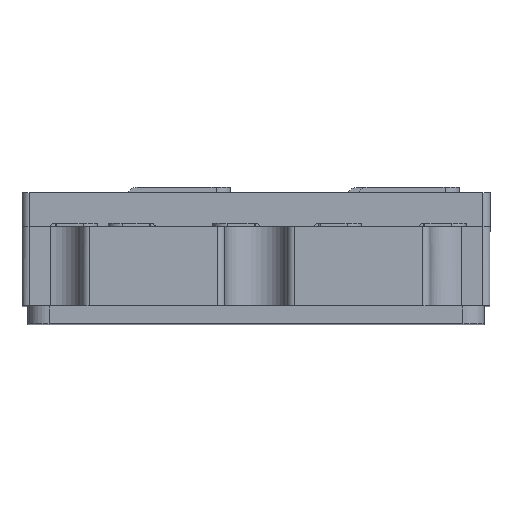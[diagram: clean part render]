
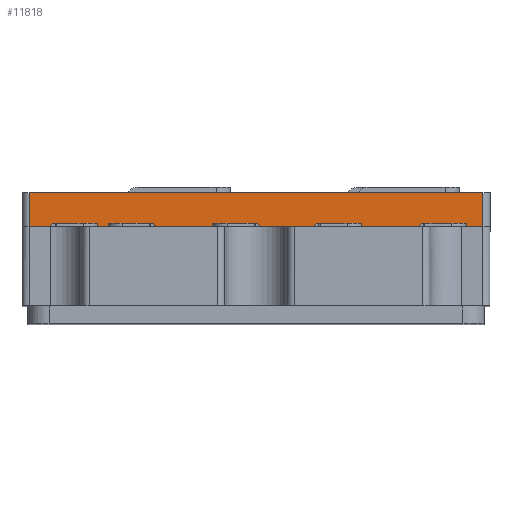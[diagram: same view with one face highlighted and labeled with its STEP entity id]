
A CAD part, top view. The second image highlights one B-rep face of the part: STEP entity #11818.
In plain terms, the highlighted planar face has unit normal (0, 0, 1).
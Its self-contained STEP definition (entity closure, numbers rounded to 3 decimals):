
#5380 = CARTESIAN_POINT ( 'NONE',  ( 63., 5., 32.5 ) ) ;
#5413 = CARTESIAN_POINT ( 'NONE',  ( 61.305, 5., 32.5 ) ) ;
#5434 = CARTESIAN_POINT ( 'NONE',  ( -63., 5., 32.5 ) ) ;
#5441 = DIRECTION ( 'NONE',  ( 1., 0., 0. ) ) ;
#5442 = VECTOR ( 'NONE', #5441, 1000. ) ;
#5443 = CARTESIAN_POINT ( 'NONE',  ( -63., 5., 32.5 ) ) ;
#5444 = LINE ( 'NONE', #5443, #5442 ) ;
#5460 = DIRECTION ( 'NONE',  ( 1., 0., 0. ) ) ;
#5461 = VECTOR ( 'NONE', #5460, 1000. ) ;
#5462 = CARTESIAN_POINT ( 'NONE',  ( -63., 5., 32.5 ) ) ;
#5470 = CARTESIAN_POINT ( 'NONE',  ( 59.978, 5., 32.5 ) ) ;
#5473 = LINE ( 'NONE', #5462, #5461 ) ;
#5924 = DIRECTION ( 'NONE',  ( 0., -1., 0. ) ) ;
#5925 = VECTOR ( 'NONE', #5924, 1000. ) ;
#5928 = CARTESIAN_POINT ( 'NONE',  ( 63., 14.5, 32.5 ) ) ;
#5929 = LINE ( 'NONE', #5928, #5925 ) ;
#8646 = VERTEX_POINT ( 'NONE', #5413 ) ;
#8649 = VERTEX_POINT ( 'NONE', #5380 ) ;
#8663 = EDGE_CURVE ( 'NONE', #8646, #8649, #5444, .T. ) ;
#8676 = VERTEX_POINT ( 'NONE', #5434 ) ;
#8682 = VERTEX_POINT ( 'NONE', #5470 ) ;
#8684 = EDGE_CURVE ( 'NONE', #8676, #8682, #5473, .T. ) ;
#8867 = EDGE_CURVE ( 'NONE', #14118, #8649, #5929, .T. ) ;
#11758 = ORIENTED_EDGE ( 'NONE', *, *, #11812, .T. ) ;
#11770 = ORIENTED_EDGE ( 'NONE', *, *, #8867, .F. ) ;
#11812 = EDGE_CURVE ( 'NONE', #11826, #8646, #34067, .T. ) ;
#11814 = ORIENTED_EDGE ( 'NONE', *, *, #8663, .T. ) ;
#11816 = ORIENTED_EDGE ( 'NONE', *, *, #8684, .T. ) ;
#11818 = ADVANCED_FACE ( 'NONE', ( #34065 ), #34125, .T. ) ;
#11819 = EDGE_LOOP ( 'NONE', ( #11816, #11821, #11758, #11814, #11770, #11833, #11828 ) ) ;
#11821 = ORIENTED_EDGE ( 'NONE', *, *, #11829, .T. ) ;
#11826 = VERTEX_POINT ( 'NONE', #34015 ) ;
#11828 = ORIENTED_EDGE ( 'NONE', *, *, #40518, .T. ) ;
#11829 = EDGE_CURVE ( 'NONE', #8682, #11826, #34129, .T. ) ;
#11833 = ORIENTED_EDGE ( 'NONE', *, *, #14117, .F. ) ;
#14109 = VERTEX_POINT ( 'NONE', #19896 ) ;
#14117 = EDGE_CURVE ( 'NONE', #14109, #14118, #19881, .T. ) ;
#14118 = VERTEX_POINT ( 'NONE', #19887 ) ;
#19873 = DIRECTION ( 'NONE',  ( 1., 0., 0. ) ) ;
#19874 = VECTOR ( 'NONE', #19873, 1000. ) ;
#19881 = LINE ( 'NONE', #19883, #19874 ) ;
#19883 = CARTESIAN_POINT ( 'NONE',  ( -63., 14.5, 32.5 ) ) ;
#19887 = CARTESIAN_POINT ( 'NONE',  ( 63., 14.5, 32.5 ) ) ;
#19896 = CARTESIAN_POINT ( 'NONE',  ( -63., 14.5, 32.5 ) ) ;
#33164 = LINE ( 'NONE', #33269, #33265 ) ;
#33263 = DIRECTION ( 'NONE',  ( 0., -1., 0. ) ) ;
#33265 = VECTOR ( 'NONE', #33263, 1000. ) ;
#33269 = CARTESIAN_POINT ( 'NONE',  ( -63., 14.5, 32.5 ) ) ;
#34015 = CARTESIAN_POINT ( 'NONE',  ( 60.641, 5., 32.5 ) ) ;
#34065 = FACE_OUTER_BOUND ( 'NONE', #11819, .T. ) ;
#34066 = CARTESIAN_POINT ( 'NONE',  ( -63., 5., 32.5 ) ) ;
#34067 = LINE ( 'NONE', #34066, #34123 ) ;
#34106 = AXIS2_PLACEMENT_3D ( 'NONE', #34118, #34113, #34209 ) ;
#34113 = DIRECTION ( 'NONE',  ( 0., 0., 1. ) ) ;
#34118 = CARTESIAN_POINT ( 'NONE',  ( -63., 14.5, 32.5 ) ) ;
#34121 = DIRECTION ( 'NONE',  ( 1., 0., 0. ) ) ;
#34123 = VECTOR ( 'NONE', #34121, 1000. ) ;
#34125 = PLANE ( 'NONE',  #34106 ) ;
#34127 = CARTESIAN_POINT ( 'NONE',  ( -63., 5., 32.5 ) ) ;
#34129 = LINE ( 'NONE', #34127, #34260 ) ;
#34209 = DIRECTION ( 'NONE',  ( 1., 0., 0. ) ) ;
#34258 = DIRECTION ( 'NONE',  ( 1., 0., 0. ) ) ;
#34260 = VECTOR ( 'NONE', #34258, 1000. ) ;
#40518 = EDGE_CURVE ( 'NONE', #14109, #8676, #33164, .T. ) ;
